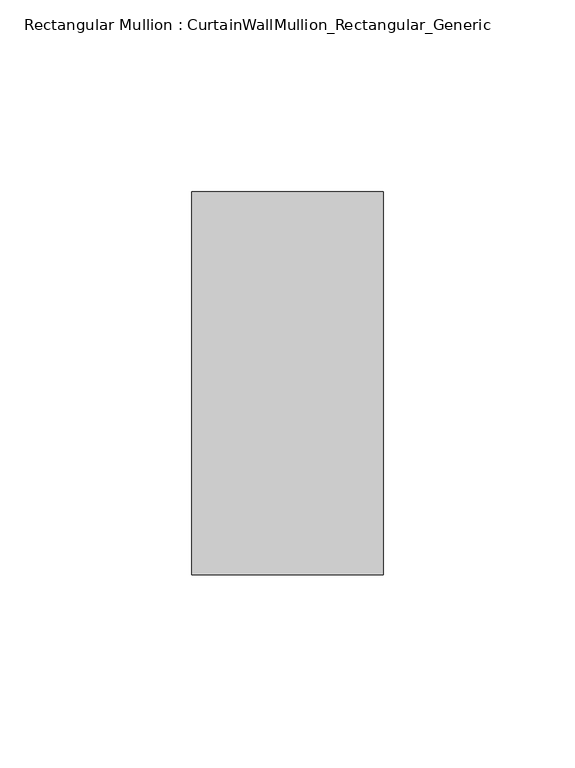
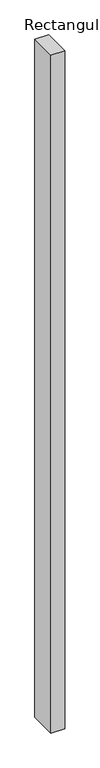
"""IFC4 building model written with IfcOpenShell, lengths in millimetres: member geometry, Rectangular Mullion : CurtainWallMullion_Rectangular_Generic."""

from ifc_helpers import new_model, si_unit, frame, origin, place, context, project, spatial, polyline, outline, extrude, source, transform, mapped, element, save


def rectangular_mullion_curtainwallmullion_rectangular_generic_4dfc917a(model_context):
    return source(origin(), model_context, "Body", "SweptSolid", [
        extrude(outline(polyline([(0.0, 50.0), (0.0, -50.0), (-50.0, -50.0), (-50.0, 50.0), (0.0, 50.0)])), frame((0.0, 0.0, -2593.3333335), z_axis=(0.0, 0.0, 1.0), x_axis=(1.0, 0.0, 0.0)), (0.0, 0.0, 1.0), 2593.3333335),
    ])


if __name__ == "__main__":
    model = new_model("IFC4")
    model_context = context("Model", 3, world=origin())
    ifc_project = project(units=[si_unit("LENGTHUNIT", "METRE", prefix="MILLI")], contexts=[model_context])
    site = spatial("IfcSite", under=ifc_project)
    building = spatial("IfcBuilding", under=site)
    placement = place(None, origin())
    rectangular_mullion_curtainwallmullion_rectangular_generic_shape = rectangular_mullion_curtainwallmullion_rectangular_generic_4dfc917a(model_context)
    element("IfcMember", 1, ObjectType="Rectangular Mullion : CurtainWallMullion_Rectangular_Generic", at=placement, inside=building, context=model_context, shape_type="MappedRepresentation", body=[
        mapped(rectangular_mullion_curtainwallmullion_rectangular_generic_shape, transform((0.0, 0.0, 0.0), x_axis=(1.0, 0.0, 0.0), y_axis=(0.0, 1.0, 0.0), z_axis=(0.0, 0.0, 1.0))),
    ])
    save(model, "model.ifc")
